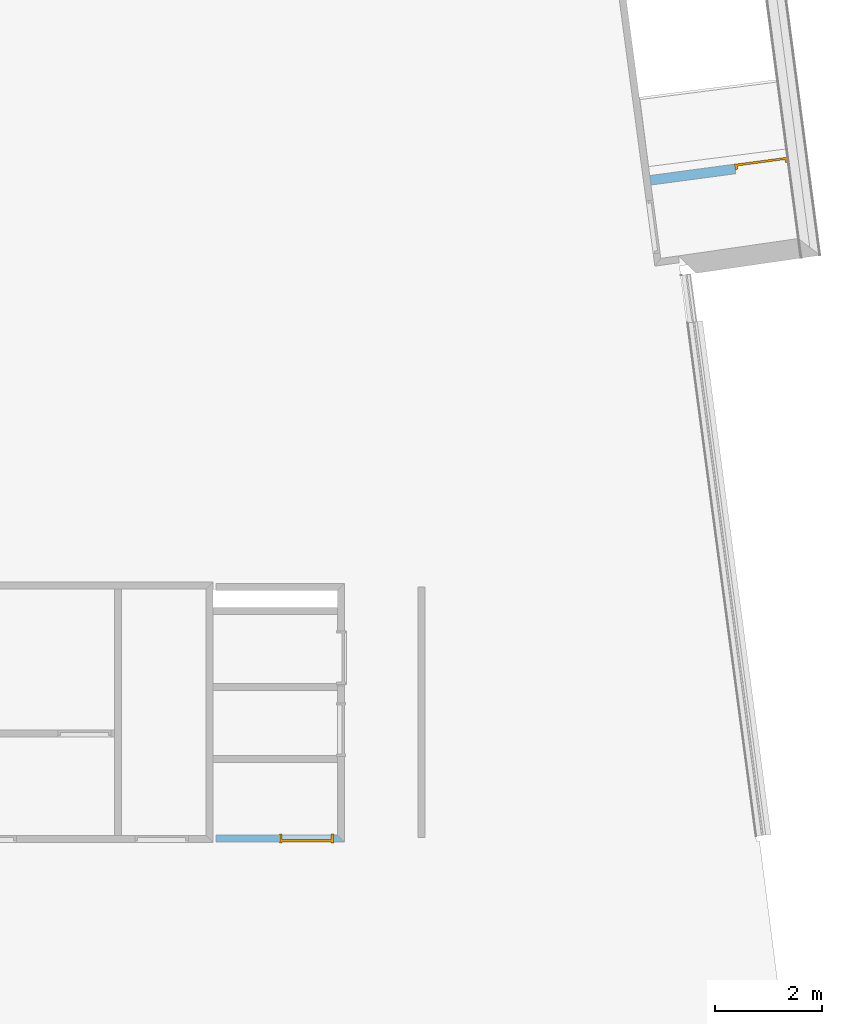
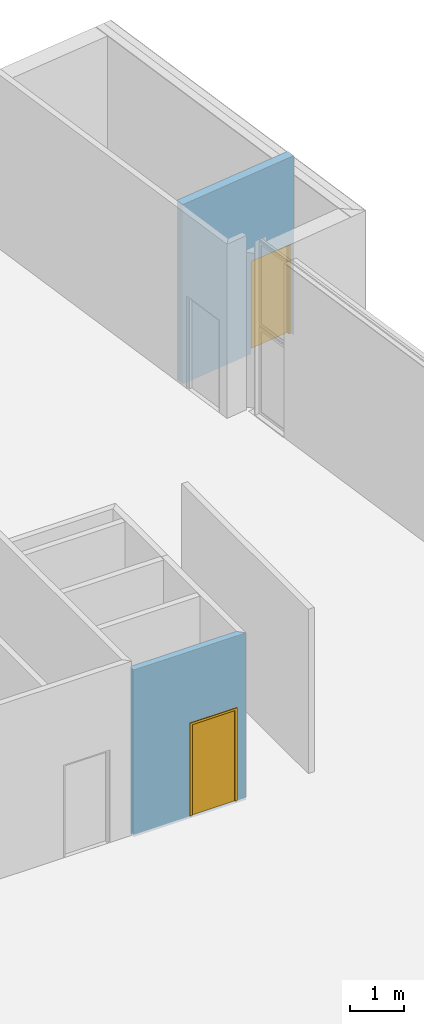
# One storey, part 7 of 9: 2 doors, 2 openings, plus 2 elements that do not belong to this part.
"""IFC2X3 building model written with IfcOpenShell, lengths in metres."""

from ifc_helpers import new_model, entity, si_unit, converted_unit, money_unit, direction, frame, origin_with_axes, origin_2d_with_axis, place, context, subcontext, project, spatial, polyline, rectangle, outline, extrude, faceted_brep, source, transform, mapped, material, material_list, layer, layer_set, layer_usage, type_object, element, fill, save


model = new_model("IFC2X3")

# Units and contexts
model_context = context("Model", 3, precision=1e-05, world=origin_with_axes(), true_north=direction((0.0, 1.0)))
body_context = subcontext(model_context, "Body", "Model", "MODEL_VIEW")
ifc_project = project(units=[si_unit("LENGTHUNIT", "METRE"), si_unit("AREAUNIT", "SQUARE_METRE"), si_unit("VOLUMEUNIT", "CUBIC_METRE"), converted_unit("PLANEANGLEUNIT", "DEGREE", entity("IfcPlaneAngleMeasure", 0.0174532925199), si_unit("PLANEANGLEUNIT", "RADIAN"), dimensions=[0, 0, 0, 0, 0, 0, 0]), si_unit("SOLIDANGLEUNIT", "STERADIAN"), money_unit("EUR"), converted_unit("TIMEUNIT", "Year", entity("IfcTimeMeasure", 31556926.0), si_unit("TIMEUNIT", "SECOND"), dimensions=[0, 0, 0, 0, 0, 0, 0]), si_unit("MASSUNIT", "GRAM"), si_unit("THERMODYNAMICTEMPERATUREUNIT", "DEGREE_CELSIUS"), si_unit("LUMINOUSINTENSITYUNIT", "LUMEN")], contexts=[model_context])

# Site, building, storey
site_placement = place(None, origin_with_axes())
site = spatial("IfcSite", under=ifc_project, at=site_placement, Name="Undefined", CompositionType="ELEMENT")
building_placement = place(site_placement, origin_with_axes())
building = spatial("IfcBuilding", under=site, at=building_placement, Name="Undefined", CompositionType="ELEMENT")
storey_placement = place(building_placement, frame((0.0, 0.0, 13.45), z_axis=(0.0, 0.0, 1.0), x_axis=(1.0, 0.0, 0.0)))
storey = spatial("IfcBuildingStorey", under=building, at=storey_placement, Name="R+2", CompositionType="ELEMENT", Elevation=13.45)

# Wall, opening, door
ifc_material_1 = material(Name="Finition int - Enduit pl\x89tre")
ifc_layer_1 = layer(ifc_material_1, 0.015, ventilated="UNKNOWN")
ifc_material_2 = material(Name="Struct. - Parpaing b\x8eton")
ifc_layer_2 = layer(ifc_material_2, 0.1, ventilated="UNKNOWN")
ifc_layer_3 = layer(ifc_material_1, 0.015, ventilated="UNKNOWN")
ifc_layer_set_1 = layer_set([ifc_layer_1, ifc_layer_2, ifc_layer_3], Name="0.0-Cloison: parpaing + pl\x89tre 2 faces copie")
ifc_layer_usage_1 = layer_usage(ifc_layer_set_1, "AXIS2", "POSITIVE", -0.05)
wall_type_1 = type_object("IfcWallType", Name="0.0-Cloison: parpaing + pl\x89tre 2 faces copie 130", PredefinedType="NOTDEFINED")
wall_1_placement = place(storey_placement, frame((57.015, 9.245, -0.0600000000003), z_axis=(0.0, 0.0, 1.0), x_axis=(1.0, 0.0, 0.0)))
wall_1 = element("IfcWallStandardCase", 1, at=wall_1_placement, inside=storey, type_object=wall_type_1, material=ifc_layer_usage_1, Name="Wall_Int_05", context=body_context, shape_type="SweptSolid", body=[
    extrude(outline(polyline([(0.0, -0.05), (2.41, -0.05), (2.28, 0.08), (0.0, 0.08), (0.0, -0.05)])), origin_with_axes(), (0.0, 0.0, 1.0), 3.785),
])
opening_1_placement = place(wall_1_placement, frame((1.70478199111, 0.0, 0.0600000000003), z_axis=(0.0, 0.0, 1.0), x_axis=(1.0, 0.0, 0.0)))
opening_1 = element("IfcOpeningElement", 2, at=opening_1_placement, cuts=wall_1, Name="DOOR_1000", context=body_context, shape_type="SweptSolid", body=[
    extrude(rectangle(XDim=1.0, YDim=2.1, at=origin_2d_with_axis()), frame((0.0, 0.13, 1.05), z_axis=(0.0, 1.0, 0.0), x_axis=(1.0, 0.0, 0.0)), (0.0, 0.0, -1.0), 0.39),
    extrude(rectangle(XDim=1.02, YDim=2.11, at=origin_2d_with_axis()), frame((0.0, 0.21, 1.055), z_axis=(0.0, 1.0, 0.0), x_axis=(1.0, 0.0, 0.0)), (0.0, 0.0, -1.0), 0.13),
    extrude(rectangle(XDim=1.02, YDim=2.11, at=origin_2d_with_axis()), frame((0.0, -0.18, 1.055), z_axis=(0.0, -1.0, 0.0), x_axis=(1.0, 0.0, 0.0)), (0.0, 0.0, -1.0), 0.13),
])
ifc_material_3 = material(Name="Empty Fill")
ifc_material_4 = material(Name="Air Space")
ifc_material_5 = material(Name="Foreground")
ifc_material_6 = material(Name="Background Fill-International")
ifc_material_7 = material(Name="Rigid Insulation")
ifc_material_8 = material(Name="Background")
ifc_material_list_1 = material_list([ifc_material_3, ifc_material_4, ifc_material_5, ifc_material_3, ifc_material_6, ifc_material_3, ifc_material_3, ifc_material_7, ifc_material_6, ifc_material_3, ifc_material_3, ifc_material_3, ifc_material_4, ifc_material_8, ifc_material_8, ifc_material_6])
door_style_1 = type_object("IfcDoorStyle", Name="Porte 18", ConstructionType="NOTDEFINED", OperationType="SINGLE_SWING_LEFT", ParameterTakesPrecedence=False, Sizeable=False)
shared_shape_1 = source(origin_with_axes(), body_context, "Body", "Brep", [
    faceted_brep([(0.51, -0.149, 0.0), (0.46, -0.149, 0.0), (0.46, -0.13, 0.0), (0.51, -0.13, 0.0), (0.51, -0.149, 2.11), (0.46, -0.149, 2.06), (0.46, -0.13, 2.06), (0.51, -0.13, 2.11)], [[[0, 1, 2, 3]], [[0, 4, 5, 1]], [[1, 5, 6, 2]], [[3, 2, 6, 7]], [[4, 0, 3, 7]], [[5, 4, 7, 6]]]),
    faceted_brep([(-0.51, -0.149, 2.11), (-0.46, -0.149, 2.06), (-0.46, -0.13, 2.06), (-0.51, -0.13, 2.11), (-0.51, -0.149, 0.0), (-0.46, -0.149, 0.0), (-0.46, -0.13, 0.0), (-0.51, -0.13, 0.0)], [[[0, 1, 2, 3]], [[0, 4, 5, 1]], [[1, 5, 6, 2]], [[3, 2, 6, 7]], [[4, 0, 3, 7]], [[5, 4, 7, 6]]]),
    faceted_brep([(0.51, -0.149, 2.11), (0.46, -0.149, 2.06), (0.46, -0.13, 2.06), (0.51, -0.13, 2.11), (-0.51, -0.149, 2.11), (-0.46, -0.149, 2.06), (-0.46, -0.13, 2.06), (-0.51, -0.13, 2.11)], [[[0, 1, 2, 3]], [[0, 4, 5, 1]], [[1, 5, 6, 2]], [[3, 2, 6, 7]], [[4, 0, 3, 7]], [[5, 4, 7, 6]]]),
    faceted_brep([(0.51, 0.019, 0.0), (0.51, 0.0, 0.0), (0.46, 0.0, 0.0), (0.46, 0.019, 0.0), (0.51, 0.019, 2.11), (0.51, 0.0, 2.11), (0.46, 0.0, 2.06), (0.46, 0.019, 2.06)], [[[0, 1, 2, 3]], [[4, 5, 1, 0]], [[1, 5, 6, 2]], [[3, 2, 6, 7]], [[0, 3, 7, 4]], [[7, 6, 5, 4]]]),
    faceted_brep([(-0.51, 0.019, 2.11), (-0.51, 0.0, 2.11), (-0.46, 0.0, 2.06), (-0.46, 0.019, 2.06), (-0.51, 0.019, 0.0), (-0.51, 0.0, 0.0), (-0.46, 0.0, 0.0), (-0.46, 0.019, 0.0)], [[[0, 1, 2, 3]], [[4, 5, 1, 0]], [[1, 5, 6, 2]], [[3, 2, 6, 7]], [[0, 3, 7, 4]], [[7, 6, 5, 4]]]),
    faceted_brep([(0.51, 0.019, 2.11), (0.51, 0.0, 2.11), (0.46, 0.0, 2.06), (0.46, 0.019, 2.06), (-0.51, 0.019, 2.11), (-0.51, 0.0, 2.11), (-0.46, 0.0, 2.06), (-0.46, 0.019, 2.06)], [[[0, 1, 2, 3]], [[4, 5, 1, 0]], [[1, 5, 6, 2]], [[3, 2, 6, 7]], [[0, 3, 7, 4]], [[7, 6, 5, 4]]]),
    faceted_brep([(0.46, -0.04, 0.0), (0.46, -0.13, 0.0), (0.46, -0.13, 2.06), (0.46, -0.04, 2.06), (0.472, -0.04, 0.0), (0.472, 0.0, 0.0), (0.5, 0.0, 0.0), (0.5, -0.13, 0.0), (0.5, -0.13, 2.06), (0.472, -0.04, 2.06), (0.5, 0.0, 2.06), (0.472, 0.0, 2.06)], [[[0, 1, 2, 3]], [[4, 5, 6, 7, 1, 0]], [[8, 2, 1, 7]], [[9, 3, 2, 8, 10, 11]], [[9, 4, 0, 3]], [[11, 5, 4, 9]], [[11, 10, 6, 5]], [[8, 7, 6, 10]]]),
    faceted_brep([(-0.472, -0.04, 2.06), (-0.472, 0.0, 2.06), (-0.5, 0.0, 2.06), (-0.5, -0.13, 2.06), (-0.46, -0.13, 2.06), (-0.46, -0.04, 2.06), (-0.472, -0.04, 0.0), (-0.472, 0.0, 0.0), (-0.5, 0.0, 0.0), (-0.5, -0.13, 0.0), (-0.46, -0.13, 0.0), (-0.46, -0.04, 0.0)], [[[0, 1, 2, 3, 4, 5]], [[0, 6, 7, 1]], [[7, 8, 2, 1]], [[9, 3, 2, 8]], [[10, 4, 3, 9]], [[5, 4, 10, 11]], [[5, 11, 6, 0]], [[6, 11, 10, 9, 8, 7]]]),
    faceted_brep([(0.472, 0.0, 2.072), (-0.472, 0.0, 2.072), (-0.472, 0.0, 2.06), (-0.5, 0.0, 2.06), (-0.5, 0.0, 2.1), (0.5, 0.0, 2.1), (0.5, 0.0, 2.06), (0.472, 0.0, 2.06), (0.472, -0.04, 2.072), (-0.472, -0.04, 2.072), (-0.472, -0.04, 2.06), (-0.46, -0.04, 2.06), (-0.46, -0.13, 2.06), (-0.5, -0.13, 2.06), (-0.5, -0.13, 2.1), (0.5, -0.13, 2.1), (0.5, -0.13, 2.06), (0.472, -0.04, 2.06), (0.46, -0.13, 2.06), (0.46, -0.04, 2.06)], [[[0, 1, 2, 3, 4, 5, 6, 7]], [[0, 8, 9, 1]], [[1, 9, 10, 2]], [[10, 11, 12, 13, 3, 2]], [[13, 14, 4, 3]], [[14, 15, 5, 4]], [[15, 16, 6, 5]], [[17, 7, 6, 16, 18, 19]], [[7, 17, 8, 0]], [[10, 9, 8, 17, 19, 11]], [[19, 18, 12, 11]], [[14, 13, 12, 18, 16, 15]]]),
    faceted_brep([(-0.472, 0.0, 0.0), (0.472, 0.0, 0.0), (0.472, -0.04, 0.0), (-0.472, -0.04, 0.0), (-0.472, 0.0, 2.072), (0.472, 0.0, 2.072), (0.472, -0.04, 2.072), (-0.472, -0.04, 2.072)], [[[0, 1, 2, 3]], [[0, 4, 5, 1]], [[1, 5, 6, 2]], [[3, 2, 6, 7]], [[4, 0, 3, 7]], [[5, 4, 7, 6]]]),
])
door_1_placement = place(opening_1_placement, frame((0.5, 0.0, 0.0), z_axis=(0.0, 0.0, 1.0), x_axis=(-1.0, 0.0, 0.0)))
door_1 = element("IfcDoor", 3, at=door_1_placement, inside=storey, type_object=door_style_1, material=ifc_material_list_1, Name="DOOR_1000", ObjectType="DOOR", OverallHeight=2.1, OverallWidth=1.0, context=body_context, shape_type="MappedRepresentation", body=[
    mapped(shared_shape_1, transform((0.5, 0.05, 0.0))),
])
fill(opening_1, door_1)

ifc_layer_4 = layer(ifc_material_1, 0.015, ventilated="UNKNOWN")
ifc_layer_5 = layer(ifc_material_2, 0.15, ventilated="UNKNOWN")
ifc_layer_6 = layer(ifc_material_1, 0.015, ventilated="UNKNOWN")
ifc_layer_set_2 = layer_set([ifc_layer_4, ifc_layer_5, ifc_layer_6], Name="0.0-Mur b\x8eton enduit platre x2")
ifc_layer_usage_2 = layer_usage(ifc_layer_set_2, "AXIS2", "POSITIVE", 0.0)
wall_type_2 = type_object("IfcWallType", Name="0.0-Mur b\x8eton enduit platre x2 180", PredefinedType="NOTDEFINED")
wall_2_placement = place(storey_placement, frame((65.1767239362, 21.5120958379, -0.12), z_axis=(0.0, 0.0, 1.0), x_axis=(0.99119748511, 0.132391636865, 0.0)))
wall_2 = element("IfcWallStandardCase", 4, at=wall_2_placement, inside=storey, type_object=wall_type_2, material=ifc_layer_usage_2, Name="Wall_Int_02", context=body_context, shape_type="SweptSolid", body=[
    extrude(outline(polyline([(6.66082976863e-06, 0.0), (2.60368976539, 0.0), (2.60389105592, 0.18), (7.53448713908e-06, 0.18), (6.66082976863e-06, 0.0)])), origin_with_axes(), (0.0, 0.0, 1.0), 4.07),
])
opening_2_placement = place(wall_2_placement, frame((2.10368813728, 0.0, 0.0), z_axis=(0.0, 0.0, 1.0), x_axis=(1.0, 0.0, 0.0)))
opening_2 = element("IfcOpeningElement", 5, at=opening_2_placement, cuts=wall_2, Name="DOOR_1000", context=body_context, shape_type="SweptSolid", body=[
    extrude(rectangle(XDim=1.0, YDim=2.1, at=origin_2d_with_axis()), frame((0.0, 0.36, 1.05), z_axis=(0.0, -1.0, 0.0), x_axis=(1.0, 0.0, 0.0)), (0.0, 0.0, 1.0), 0.18),
    extrude(rectangle(XDim=1.0, YDim=2.1, at=origin_2d_with_axis()), frame((0.0, 0.0, 1.05), z_axis=(0.0, 1.0, 0.0), x_axis=(1.0, 0.0, 0.0)), (0.0, 0.0, 1.0), 0.18),
])
ifc_material_list_2 = material_list([ifc_material_6, ifc_material_4])
door_style_2 = type_object("IfcDoorStyle", Name="IFC Porte - Simple battant", ConstructionType="NOTDEFINED", OperationType="SINGLE_SWING_RIGHT", ParameterTakesPrecedence=True, Sizeable=False)
shared_shape_2 = source(origin_with_axes(), body_context, "Body", "Brep", [
    faceted_brep([(-0.5, 0.0, 0.0), (-0.45, 0.0, 0.0), (-0.45, -0.1, 0.0), (-0.5, -0.1, 0.0), (-0.5, 0.0, 2.1), (0.5, 0.0, 2.1), (0.5, 0.0, 0.0), (0.45, 0.0, 0.0), (0.45, 0.0, 2.05), (-0.45, 0.0, 2.05), (-0.45, -0.1, 2.05), (0.45, -0.1, 2.05), (0.45, -0.1, 0.0), (0.5, -0.1, 0.0), (0.5, -0.1, 2.1), (-0.5, -0.1, 2.1)], [[[0, 1, 2, 3]], [[0, 4, 5, 6, 7, 8, 9, 1]], [[1, 9, 10, 2]], [[3, 2, 10, 11, 12, 13, 14, 15]], [[4, 0, 3, 15]], [[5, 4, 15, 14]], [[6, 5, 14, 13]], [[7, 6, 13, 12]], [[8, 7, 12, 11]], [[9, 8, 11, 10]]]),
    faceted_brep([(0.45, 0.0, 0.0), (0.45, 0.0, 2.05), (0.45, -0.04, 2.05), (0.45, -0.04, 0.0), (-0.45, 0.0, 0.0), (-0.45, 0.0, 2.05), (-0.45, -0.04, 2.05), (-0.45, -0.04, 0.0)], [[[0, 1, 2, 3]], [[0, 4, 5, 1]], [[1, 5, 6, 2]], [[3, 2, 6, 7]], [[4, 0, 3, 7]], [[5, 4, 7, 6]]]),
])
door_2_placement = place(opening_2_placement, frame((-0.5, 0.0, 0.0), z_axis=(0.0, 0.0, 1.0), x_axis=(1.0, 0.0, 0.0)))
door_2 = element("IfcDoor", 6, at=door_2_placement, inside=storey, type_object=door_style_2, material=ifc_material_list_2, Name="DOOR_1000", ObjectType="DOOR", OverallHeight=2.1, OverallWidth=1.0, context=body_context, shape_type="MappedRepresentation", body=[
    mapped(shared_shape_2, transform((0.5, 0.18, 0.0))),
])
fill(opening_2, door_2)

save(model, "model.ifc")
